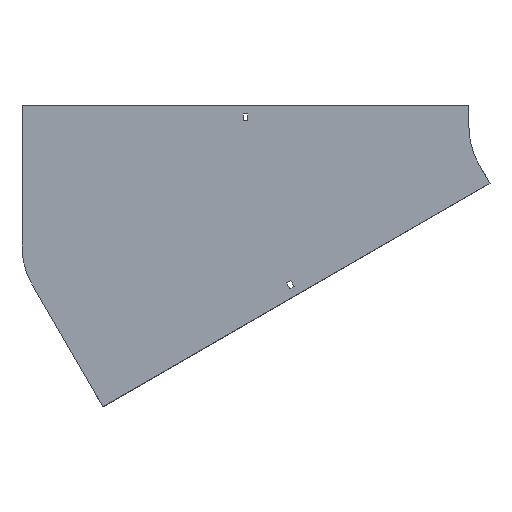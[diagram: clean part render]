
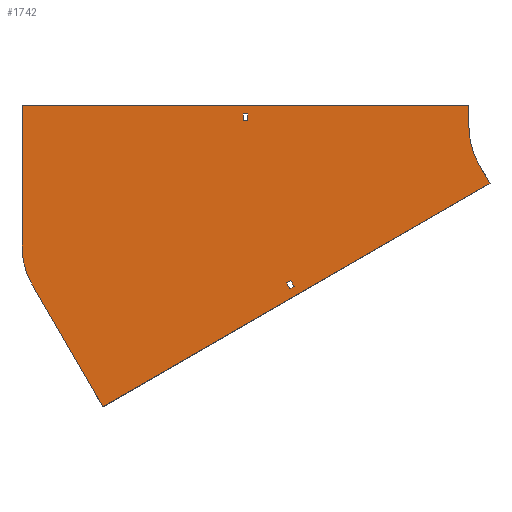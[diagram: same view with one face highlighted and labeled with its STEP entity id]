
A CAD part, front view. The second image highlights one B-rep face of the part: STEP entity #1742.
In plain terms, the highlighted planar face has unit normal (0, -1, 0).
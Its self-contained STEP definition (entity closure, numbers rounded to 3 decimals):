
#27 = DIRECTION ( 'NONE',  ( 0., -1., 0. ) ) ;
#39 = DIRECTION ( 'NONE',  ( -1., 0., 0. ) ) ;
#48 = CARTESIAN_POINT ( 'NONE',  ( -405.25, 0., 9. ) ) ;
#53 = DIRECTION ( 'NONE',  ( 0., 0., 1. ) ) ;
#54 = EDGE_CURVE ( 'NONE', #462, #91, #112, .T. ) ;
#59 = DIRECTION ( 'NONE',  ( 0., 0., -1. ) ) ;
#72 = CARTESIAN_POINT ( 'NONE',  ( 0., 0., 0. ) ) ;
#82 = EDGE_CURVE ( 'NONE', #1927, #1519, #1618, .T. ) ;
#89 = CARTESIAN_POINT ( 'NONE',  ( -398.75, 0., 9. ) ) ;
#91 = VERTEX_POINT ( 'NONE', #89 ) ;
#95 = LINE ( 'NONE', #951, #925 ) ;
#100 = ORIENTED_EDGE ( 'NONE', *, *, #834, .F. ) ;
#112 = LINE ( 'NONE', #1168, #367 ) ;
#135 = CARTESIAN_POINT ( 'NONE',  ( -346.457, 0., -210.419 ) ) ;
#154 = ORIENTED_EDGE ( 'NONE', *, *, #410, .F. ) ;
#160 = CARTESIAN_POINT ( 'NONE',  ( -340.828, 0., -207.169 ) ) ;
#161 = CARTESIAN_POINT ( 'NONE',  ( -341.957, 0., -218.213 ) ) ;
#180 = DIRECTION ( 'NONE',  ( -0.5, 0., 0.866 ) ) ;
#185 = FACE_BOUND ( 'NONE', #294, .T. ) ;
#192 = ORIENTED_EDGE ( 'NONE', *, *, #1488, .F. ) ;
#212 = VECTOR ( 'NONE', #1198, 1000. ) ;
#232 = DIRECTION ( 'NONE',  ( 0., 0., 1. ) ) ;
#240 = VERTEX_POINT ( 'NONE', #961 ) ;
#269 = EDGE_CURVE ( 'NONE', #1157, #1093, #809, .T. ) ;
#285 = EDGE_LOOP ( 'NONE', ( #633, #694, #1366, #1805, #100, #192, #468, #926 ) ) ;
#294 = EDGE_LOOP ( 'NONE', ( #798, #391, #154, #1131 ) ) ;
#306 = EDGE_CURVE ( 'NONE', #1093, #471, #1365, .T. ) ;
#339 = LINE ( 'NONE', #939, #1324 ) ;
#364 = VERTEX_POINT ( 'NONE', #538 ) ;
#367 = VECTOR ( 'NONE', #1439, 1000. ) ;
#388 = EDGE_CURVE ( 'NONE', #240, #1328, #95, .T. ) ;
#391 = ORIENTED_EDGE ( 'NONE', *, *, #388, .F. ) ;
#410 = EDGE_CURVE ( 'NONE', #1936, #240, #714, .T. ) ;
#440 = LINE ( 'NONE', #1945, #1233 ) ;
#462 = VERTEX_POINT ( 'NONE', #732 ) ;
#463 = CARTESIAN_POINT ( 'NONE',  ( -340.828, 0., -207.169 ) ) ;
#468 = ORIENTED_EDGE ( 'NONE', *, *, #306, .F. ) ;
#471 = VERTEX_POINT ( 'NONE', #587 ) ;
#479 = LINE ( 'NONE', #463, #212 ) ;
#480 = VECTOR ( 'NONE', #53, 1000. ) ;
#486 = CARTESIAN_POINT ( 'NONE',  ( -405.25, 0., 9. ) ) ;
#501 = FACE_OUTER_BOUND ( 'NONE', #285, .T. ) ;
#512 = CARTESIAN_POINT ( 'NONE',  ( -405.25, 0., 9. ) ) ;
#515 = CARTESIAN_POINT ( 'NONE',  ( -100., 0., 30. ) ) ;
#538 = CARTESIAN_POINT ( 'NONE',  ( -594.682, 0., -377.981 ) ) ;
#576 = CARTESIAN_POINT ( 'NONE',  ( -690.603, 0., -211.841 ) ) ;
#586 = VERTEX_POINT ( 'NONE', #1950 ) ;
#587 = CARTESIAN_POINT ( 'NONE',  ( -86.603, 0., -50. ) ) ;
#616 = LINE ( 'NONE', #161, #1650 ) ;
#633 = ORIENTED_EDGE ( 'NONE', *, *, #1853, .F. ) ;
#667 = ORIENTED_EDGE ( 'NONE', *, *, #54, .T. ) ;
#694 = ORIENTED_EDGE ( 'NONE', *, *, #1100, .F. ) ;
#695 = DIRECTION ( 'NONE',  ( 0., 0., -1. ) ) ;
#705 = DIRECTION ( 'NONE',  ( 0.5, 0., -0.866 ) ) ;
#714 = LINE ( 'NONE', #135, #1582 ) ;
#721 = DIRECTION ( 'NONE',  ( -0.866, 0., -0.5 ) ) ;
#732 = CARTESIAN_POINT ( 'NONE',  ( -398.75, 0., 18. ) ) ;
#790 = CARTESIAN_POINT ( 'NONE',  ( -704., 0., -161.841 ) ) ;
#793 = VECTOR ( 'NONE', #922, 1000. ) ;
#798 = ORIENTED_EDGE ( 'NONE', *, *, #973, .F. ) ;
#801 = EDGE_CURVE ( 'NONE', #91, #1089, #1735, .T. ) ;
#809 = LINE ( 'NONE', #515, #868 ) ;
#832 = ORIENTED_EDGE ( 'NONE', *, *, #1748, .T. ) ;
#834 = EDGE_CURVE ( 'NONE', #1590, #364, #1296, .T. ) ;
#868 = VECTOR ( 'NONE', #695, 1000. ) ;
#922 = DIRECTION ( 'NONE',  ( 0.5, 0., -0.866 ) ) ;
#925 = VECTOR ( 'NONE', #705, 1000. ) ;
#926 = ORIENTED_EDGE ( 'NONE', *, *, #269, .F. ) ;
#939 = CARTESIAN_POINT ( 'NONE',  ( -405.25, 0., 18. ) ) ;
#951 = CARTESIAN_POINT ( 'NONE',  ( -346.457, 0., -210.419 ) ) ;
#956 = VERTEX_POINT ( 'NONE', #1360 ) ;
#961 = CARTESIAN_POINT ( 'NONE',  ( -346.457, 0., -210.419 ) ) ;
#973 = EDGE_CURVE ( 'NONE', #1328, #1244, #616, .T. ) ;
#987 = EDGE_CURVE ( 'NONE', #1244, #1936, #479, .T. ) ;
#1020 = AXIS2_PLACEMENT_3D ( 'NONE', #72, #1543, #59 ) ;
#1034 = CARTESIAN_POINT ( 'NONE',  ( -86.603, 0., -50. ) ) ;
#1073 = AXIS2_PLACEMENT_3D ( 'NONE', #1391, #27, #1683 ) ;
#1089 = VERTEX_POINT ( 'NONE', #48 ) ;
#1093 = VERTEX_POINT ( 'NONE', #1390 ) ;
#1100 = EDGE_CURVE ( 'NONE', #1519, #586, #1871, .T. ) ;
#1131 = ORIENTED_EDGE ( 'NONE', *, *, #987, .F. ) ;
#1145 = LINE ( 'NONE', #1301, #1284 ) ;
#1157 = VERTEX_POINT ( 'NONE', #1283 ) ;
#1165 = DIRECTION ( 'NONE',  ( 1., 0., 0. ) ) ;
#1168 = CARTESIAN_POINT ( 'NONE',  ( -398.75, 0., 9. ) ) ;
#1173 = DIRECTION ( 'NONE',  ( -0.866, 0., -0.5 ) ) ;
#1198 = DIRECTION ( 'NONE',  ( -0.5, 0., 0.866 ) ) ;
#1233 = VECTOR ( 'NONE', #180, 1000. ) ;
#1240 = EDGE_LOOP ( 'NONE', ( #1864, #832, #667, #1681 ) ) ;
#1244 = VERTEX_POINT ( 'NONE', #1750 ) ;
#1283 = CARTESIAN_POINT ( 'NONE',  ( -100., 0., 30. ) ) ;
#1284 = VECTOR ( 'NONE', #1165, 1000. ) ;
#1296 = LINE ( 'NONE', #1919, #1773 ) ;
#1301 = CARTESIAN_POINT ( 'NONE',  ( -704., 0., 30. ) ) ;
#1304 = VECTOR ( 'NONE', #39, 1000. ) ;
#1308 = AXIS2_PLACEMENT_3D ( 'NONE', #1600, #1426, #232 ) ;
#1324 = VECTOR ( 'NONE', #1531, 1000. ) ;
#1328 = VERTEX_POINT ( 'NONE', #1440 ) ;
#1360 = CARTESIAN_POINT ( 'NONE',  ( -405.25, 0., 18. ) ) ;
#1365 = CIRCLE ( 'NONE', #1020, 100. ) ;
#1366 = ORIENTED_EDGE ( 'NONE', *, *, #82, .F. ) ;
#1383 = PLANE ( 'NONE',  #1073 ) ;
#1388 = VECTOR ( 'NONE', #1400, 1000. ) ;
#1390 = CARTESIAN_POINT ( 'NONE',  ( -100., 0., 0. ) ) ;
#1391 = CARTESIAN_POINT ( 'NONE',  ( 0., 0., 0. ) ) ;
#1400 = DIRECTION ( 'NONE',  ( 0., 0., 1. ) ) ;
#1407 = LINE ( 'NONE', #486, #480 ) ;
#1426 = DIRECTION ( 'NONE',  ( 0., 1., 0. ) ) ;
#1439 = DIRECTION ( 'NONE',  ( 0., 0., -1. ) ) ;
#1440 = CARTESIAN_POINT ( 'NONE',  ( -341.957, 0., -218.213 ) ) ;
#1475 = EDGE_CURVE ( 'NONE', #364, #1927, #440, .T. ) ;
#1488 = EDGE_CURVE ( 'NONE', #471, #1590, #1670, .T. ) ;
#1510 = DIRECTION ( 'NONE',  ( 0.866, 0., 0.5 ) ) ;
#1519 = VERTEX_POINT ( 'NONE', #790 ) ;
#1531 = DIRECTION ( 'NONE',  ( 1., 0., 0. ) ) ;
#1539 = CARTESIAN_POINT ( 'NONE',  ( -704., 0., -161.841 ) ) ;
#1543 = DIRECTION ( 'NONE',  ( 0., -1., 0. ) ) ;
#1582 = VECTOR ( 'NONE', #1173, 1000. ) ;
#1590 = VERTEX_POINT ( 'NONE', #1687 ) ;
#1596 = EDGE_CURVE ( 'NONE', #1089, #956, #1407, .T. ) ;
#1600 = CARTESIAN_POINT ( 'NONE',  ( -604., 0., -161.841 ) ) ;
#1618 = CIRCLE ( 'NONE', #1308, 100. ) ;
#1650 = VECTOR ( 'NONE', #1510, 1000. ) ;
#1670 = LINE ( 'NONE', #1034, #793 ) ;
#1681 = ORIENTED_EDGE ( 'NONE', *, *, #801, .T. ) ;
#1683 = DIRECTION ( 'NONE',  ( 0., 0., -1. ) ) ;
#1687 = CARTESIAN_POINT ( 'NONE',  ( -71.603, 0., -75.981 ) ) ;
#1735 = LINE ( 'NONE', #512, #1304 ) ;
#1742 = ADVANCED_FACE ( 'NONE', ( #1841, #501, #185 ), #1383, .T. ) ;
#1748 = EDGE_CURVE ( 'NONE', #956, #462, #339, .T. ) ;
#1750 = CARTESIAN_POINT ( 'NONE',  ( -336.328, 0., -214.963 ) ) ;
#1773 = VECTOR ( 'NONE', #721, 1000. ) ;
#1805 = ORIENTED_EDGE ( 'NONE', *, *, #1475, .F. ) ;
#1841 = FACE_BOUND ( 'NONE', #1240, .T. ) ;
#1853 = EDGE_CURVE ( 'NONE', #586, #1157, #1145, .T. ) ;
#1864 = ORIENTED_EDGE ( 'NONE', *, *, #1596, .T. ) ;
#1871 = LINE ( 'NONE', #1539, #1388 ) ;
#1919 = CARTESIAN_POINT ( 'NONE',  ( -71.603, 0., -75.981 ) ) ;
#1927 = VERTEX_POINT ( 'NONE', #576 ) ;
#1936 = VERTEX_POINT ( 'NONE', #160 ) ;
#1945 = CARTESIAN_POINT ( 'NONE',  ( -594.682, 0., -377.981 ) ) ;
#1950 = CARTESIAN_POINT ( 'NONE',  ( -704., 0., 30. ) ) ;
